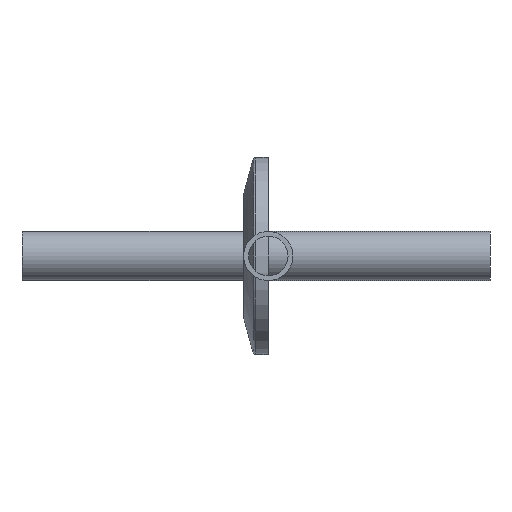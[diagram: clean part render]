
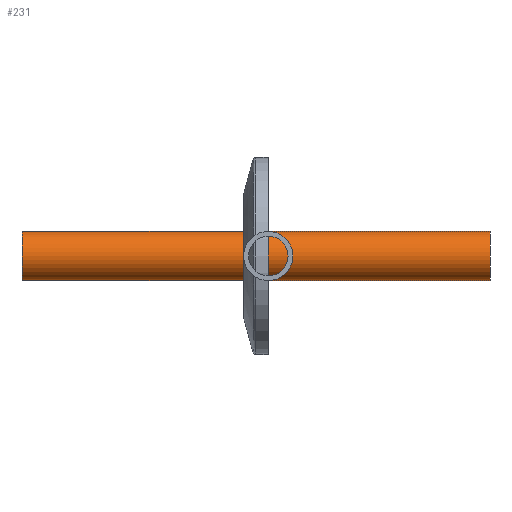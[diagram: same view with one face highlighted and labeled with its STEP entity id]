
A CAD part, front view. The second image highlights one B-rep face of the part: STEP entity #231.
In plain terms, the highlighted cylindrical face has radius 5 mm (diameter 10 mm), a full revolution.
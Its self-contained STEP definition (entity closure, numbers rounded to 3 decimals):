
#231 = ADVANCED_FACE( '', ( #316, #317 ), #318, .T. );
#316 = FACE_OUTER_BOUND( '', #354, .T. );
#317 = FACE_OUTER_BOUND( '', #355, .T. );
#318 = CYLINDRICAL_SURFACE( '', #356, 5. );
#354 = EDGE_LOOP( '', ( #407 ) );
#355 = EDGE_LOOP( '', ( #408 ) );
#356 = AXIS2_PLACEMENT_3D( '', #409, #410, #411 );
#407 = ORIENTED_EDGE( '', *, *, #463, .T. );
#408 = ORIENTED_EDGE( '', *, *, #464, .F. );
#409 = CARTESIAN_POINT( '', ( 0., -95., 0. ) );
#410 = DIRECTION( '', ( 0., -1., 0. ) );
#411 = DIRECTION( '', ( 0., 0., 1. ) );
#463 = EDGE_CURVE( '', #508, #508, #509, .T. );
#464 = EDGE_CURVE( '', #510, #510, #511, .T. );
#508 = VERTEX_POINT( '', #516 );
#509 = CIRCLE( '', #517, 5. );
#510 = VERTEX_POINT( '', #518 );
#511 = CIRCLE( '', #519, 5. );
#516 = CARTESIAN_POINT( '', ( 5., -95., 0. ) );
#517 = AXIS2_PLACEMENT_3D( '', #526, #527, #528 );
#518 = CARTESIAN_POINT( '', ( 5., 0., 0. ) );
#519 = AXIS2_PLACEMENT_3D( '', #529, #530, #531 );
#526 = CARTESIAN_POINT( '', ( 0., -95., 0. ) );
#527 = DIRECTION( '', ( 0., 1., 0. ) );
#528 = DIRECTION( '', ( 1., 0., 0. ) );
#529 = CARTESIAN_POINT( '', ( 0., 0., 0. ) );
#530 = DIRECTION( '', ( 0., 1., 0. ) );
#531 = DIRECTION( '', ( 1., 0., 0. ) );
